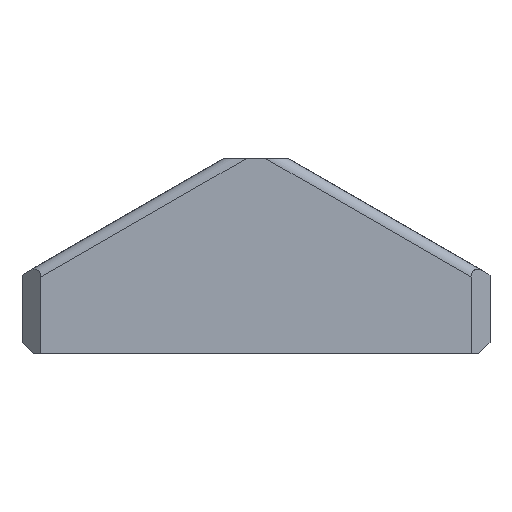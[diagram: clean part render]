
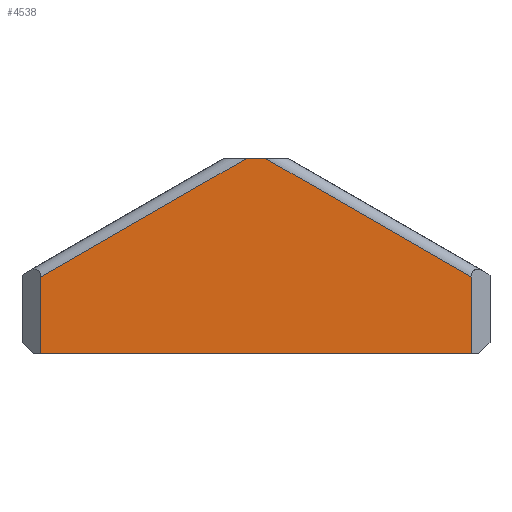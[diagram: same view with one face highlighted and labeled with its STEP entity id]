
A CAD part, front view. The second image highlights one B-rep face of the part: STEP entity #4538.
In plain terms, the highlighted planar face has unit normal (0, -1, 0).
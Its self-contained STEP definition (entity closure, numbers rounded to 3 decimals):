
#77 = DIRECTION ( 'NONE',  ( 1., 0., 0. ) ) ;
#255 = DIRECTION ( 'NONE',  ( -0.866, 0., -0.5 ) ) ;
#331 = DIRECTION ( 'NONE',  ( 0., 0., -1. ) ) ;
#335 = ORIENTED_EDGE ( 'NONE', *, *, #3240, .T. ) ;
#357 = VECTOR ( 'NONE', #331, 1000. ) ;
#521 = LINE ( 'NONE', #6807, #357 ) ;
#710 = CARTESIAN_POINT ( 'NONE',  ( -147.122, -139.933, 36.169 ) ) ;
#1017 = LINE ( 'NONE', #3510, #6608 ) ;
#1054 = LINE ( 'NONE', #4600, #5377 ) ;
#1061 = EDGE_CURVE ( 'NONE', #6003, #3363, #1054, .T. ) ;
#1157 = CARTESIAN_POINT ( 'NONE',  ( -59.541, -139.933, 10.169 ) ) ;
#1176 = CARTESIAN_POINT ( 'NONE',  ( -174.541, -139.933, 20.338 ) ) ;
#1185 = AXIS2_PLACEMENT_3D ( 'NONE', #4938, #1714, #5492 ) ;
#1641 = VECTOR ( 'NONE', #2785, 1000. ) ;
#1714 = DIRECTION ( 'NONE',  ( 0., 1., 0. ) ) ;
#1854 = CARTESIAN_POINT ( 'NONE',  ( -174.541, -139.933, 0. ) ) ;
#2605 = EDGE_CURVE ( 'NONE', #4235, #4074, #3769, .T. ) ;
#2785 = DIRECTION ( 'NONE',  ( 0., 0., 1. ) ) ;
#2965 = DIRECTION ( 'NONE',  ( 1., 0., 0. ) ) ;
#3240 = EDGE_CURVE ( 'NONE', #4074, #5863, #521, .T. ) ;
#3295 = FACE_OUTER_BOUND ( 'NONE', #5792, .T. ) ;
#3363 = VERTEX_POINT ( 'NONE', #3697 ) ;
#3510 = CARTESIAN_POINT ( 'NONE',  ( -117.041, -139.933, 0. ) ) ;
#3697 = CARTESIAN_POINT ( 'NONE',  ( -59.541, -139.933, 20.338 ) ) ;
#3769 = LINE ( 'NONE', #710, #6474 ) ;
#4074 = VERTEX_POINT ( 'NONE', #1176 ) ;
#4235 = VERTEX_POINT ( 'NONE', #6182 ) ;
#4279 = EDGE_CURVE ( 'NONE', #5863, #4564, #1017, .T. ) ;
#4314 = ORIENTED_EDGE ( 'NONE', *, *, #4279, .T. ) ;
#4538 = ADVANCED_FACE ( 'NONE', ( #3295 ), #6004, .F. ) ;
#4564 = VERTEX_POINT ( 'NONE', #4963 ) ;
#4600 = CARTESIAN_POINT ( 'NONE',  ( -86.961, -139.933, 36.169 ) ) ;
#4653 = DIRECTION ( 'NONE',  ( 0.866, 0., -0.5 ) ) ;
#4938 = CARTESIAN_POINT ( 'NONE',  ( -179.541, -139.933, 57. ) ) ;
#4940 = ORIENTED_EDGE ( 'NONE', *, *, #1061, .F. ) ;
#4963 = CARTESIAN_POINT ( 'NONE',  ( -59.541, -139.933, 0. ) ) ;
#5006 = ORIENTED_EDGE ( 'NONE', *, *, #6290, .F. ) ;
#5377 = VECTOR ( 'NONE', #4653, 1000. ) ;
#5484 = CARTESIAN_POINT ( 'NONE',  ( -117.041, -139.933, 52. ) ) ;
#5492 = DIRECTION ( 'NONE',  ( 1., 0., 0. ) ) ;
#5695 = EDGE_CURVE ( 'NONE', #4564, #3363, #5965, .T. ) ;
#5749 = CARTESIAN_POINT ( 'NONE',  ( -114.381, -139.933, 52. ) ) ;
#5788 = LINE ( 'NONE', #5484, #6981 ) ;
#5792 = EDGE_LOOP ( 'NONE', ( #6300, #335, #4314, #5820, #4940, #5006 ) ) ;
#5820 = ORIENTED_EDGE ( 'NONE', *, *, #5695, .T. ) ;
#5863 = VERTEX_POINT ( 'NONE', #1854 ) ;
#5965 = LINE ( 'NONE', #1157, #1641 ) ;
#6003 = VERTEX_POINT ( 'NONE', #5749 ) ;
#6004 = PLANE ( 'NONE',  #1185 ) ;
#6182 = CARTESIAN_POINT ( 'NONE',  ( -119.702, -139.933, 52. ) ) ;
#6290 = EDGE_CURVE ( 'NONE', #4235, #6003, #5788, .T. ) ;
#6300 = ORIENTED_EDGE ( 'NONE', *, *, #2605, .T. ) ;
#6474 = VECTOR ( 'NONE', #255, 1000. ) ;
#6608 = VECTOR ( 'NONE', #2965, 1000. ) ;
#6807 = CARTESIAN_POINT ( 'NONE',  ( -174.541, -139.933, 10.169 ) ) ;
#6981 = VECTOR ( 'NONE', #77, 1000. ) ;
